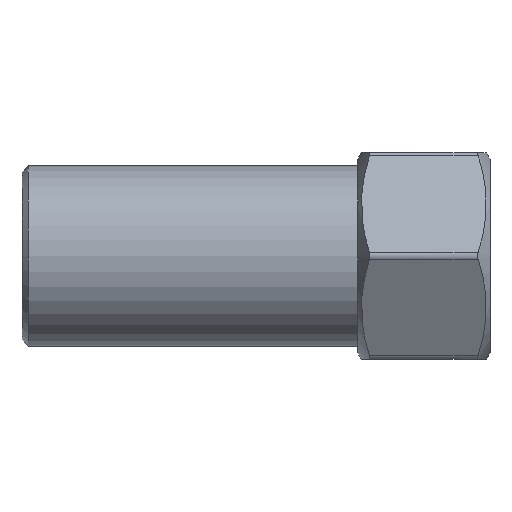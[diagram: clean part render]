
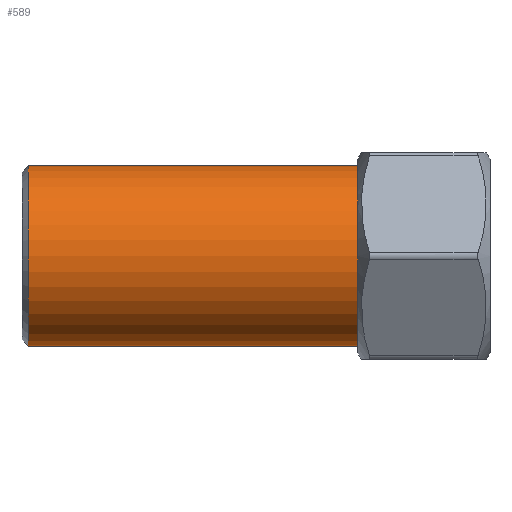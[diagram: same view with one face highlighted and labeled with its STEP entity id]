
A CAD part, top view. The second image highlights one B-rep face of the part: STEP entity #589.
In plain terms, the highlighted cylindrical face has radius 14 mm (diameter 28 mm), a partial arc.
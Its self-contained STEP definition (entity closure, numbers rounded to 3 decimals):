
#19 = DIRECTION ( 'NONE',  ( -1., 0., 0. ) ) ;
#41 = CARTESIAN_POINT ( 'NONE',  ( -61.5, 0., 0. ) ) ;
#58 = CARTESIAN_POINT ( 'NONE',  ( -10.5, 14., 0. ) ) ;
#65 = CARTESIAN_POINT ( 'NONE',  ( -61.5, -14., 0. ) ) ;
#69 = CARTESIAN_POINT ( 'NONE',  ( -62.5, -14., 0. ) ) ;
#71 = ORIENTED_EDGE ( 'NONE', *, *, #600, .T. ) ;
#108 = AXIS2_PLACEMENT_3D ( 'NONE', #776, #527, #361 ) ;
#197 = AXIS2_PLACEMENT_3D ( 'NONE', #1012, #19, #839 ) ;
#230 = DIRECTION ( 'NONE',  ( -1., 0., 0. ) ) ;
#246 = LINE ( 'NONE', #964, #808 ) ;
#277 = AXIS2_PLACEMENT_3D ( 'NONE', #41, #1018, #782 ) ;
#322 = CIRCLE ( 'NONE', #277, 14. ) ;
#361 = DIRECTION ( 'NONE',  ( 0., -1., 0. ) ) ;
#364 = EDGE_LOOP ( 'NONE', ( #897, #917, #71, #583 ) ) ;
#368 = VECTOR ( 'NONE', #884, 1000. ) ;
#379 = EDGE_CURVE ( 'NONE', #623, #900, #1027, .T. ) ;
#517 = EDGE_CURVE ( 'NONE', #623, #686, #951, .T. ) ;
#527 = DIRECTION ( 'NONE',  ( -1., 0., 0. ) ) ;
#555 = CYLINDRICAL_SURFACE ( 'NONE', #108, 14. ) ;
#583 = ORIENTED_EDGE ( 'NONE', *, *, #379, .F. ) ;
#589 = ADVANCED_FACE ( 'NONE', ( #693 ), #555, .T. ) ;
#600 = EDGE_CURVE ( 'NONE', #826, #900, #322, .T. ) ;
#623 = VERTEX_POINT ( 'NONE', #936 ) ;
#630 = CARTESIAN_POINT ( 'NONE',  ( -61.5, 14., 0. ) ) ;
#660 = EDGE_CURVE ( 'NONE', #686, #826, #246, .T. ) ;
#686 = VERTEX_POINT ( 'NONE', #58 ) ;
#693 = FACE_OUTER_BOUND ( 'NONE', #364, .T. ) ;
#776 = CARTESIAN_POINT ( 'NONE',  ( -62.5, 0., 0. ) ) ;
#782 = DIRECTION ( 'NONE',  ( 0., 1., 0. ) ) ;
#808 = VECTOR ( 'NONE', #230, 1000. ) ;
#826 = VERTEX_POINT ( 'NONE', #630 ) ;
#839 = DIRECTION ( 'NONE',  ( 0., -1., 0. ) ) ;
#884 = DIRECTION ( 'NONE',  ( -1., 0., 0. ) ) ;
#897 = ORIENTED_EDGE ( 'NONE', *, *, #517, .T. ) ;
#900 = VERTEX_POINT ( 'NONE', #65 ) ;
#917 = ORIENTED_EDGE ( 'NONE', *, *, #660, .T. ) ;
#936 = CARTESIAN_POINT ( 'NONE',  ( -10.5, -14., 0. ) ) ;
#951 = CIRCLE ( 'NONE', #197, 14. ) ;
#964 = CARTESIAN_POINT ( 'NONE',  ( -62.5, 14., 0. ) ) ;
#1012 = CARTESIAN_POINT ( 'NONE',  ( -10.5, 0., 0. ) ) ;
#1018 = DIRECTION ( 'NONE',  ( 1., 0., 0. ) ) ;
#1027 = LINE ( 'NONE', #69, #368 ) ;
